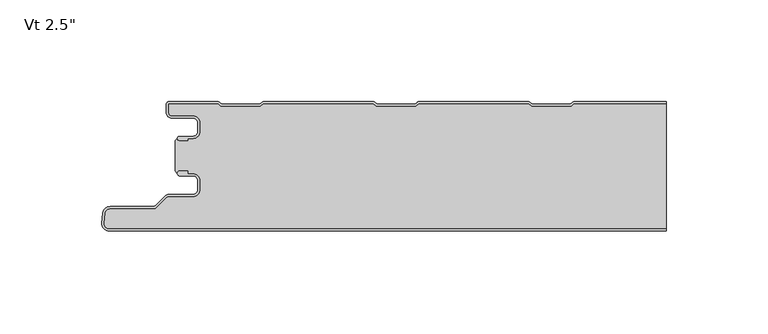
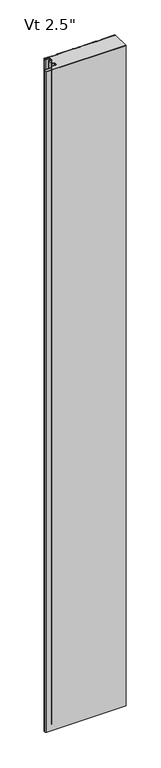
"""IFC4 building model written with IfcOpenShell, lengths in millimetres: plate geometry."""

from ifc_helpers import new_model, si_unit, point, frame, frame_2d, origin, origin_with_axes, place, context, project, spatial, polyline, circle_curve, trimmed, segment, composite_curve, outline, extrude, source, transform, mapped, element, save
from ifc_brep_helpers import plane_surface, cylinder_surface, revolved_surface, advanced_brep


def plate_06cb28f5(model_context):
    return source(origin(), model_context, "Body", "SolidModel", [
        advanced_brep(
        [(-118.368691, -17.0015034, 2400.0), (-119.3686883, -18.0015065, 2400.0), (-118.368691, -19.0014978, 2400.0), (-114.3684874, -19.0014979, 2400.0), (-114.3684874, -18.0015034, 2400.0), (-111.6762776, -18.0015034, 2400.0), (-108.3762819, -14.7015077, 2400.0), (-108.3762819, -10.3015164, 2400.0), (-111.6762774, -7.001521, 2400.0), (-122.0962563, -7.001521, 2400.0), (-123.8662505, -5.2315268, 2400.0), (-123.8662505, -0.9999791, 2400.0), (-99.3659738, -0.9999791, 2400.0), (-97.9803312, -2.2002182, 2400.0), (-78.6051649, -2.2002182, 2400.0), (-77.219532, -0.9999874, 2400.0), (-23.1661166, -0.9999874, 2400.0), (-21.7804836, -2.2002182, 2400.0), (-2.4053173, -2.2002182, 2400.0), (-1.0196844, -0.9999874, 2400.0), (53.033731, -0.9999874, 2400.0), (54.419364, -2.2002182, 2400.0), (73.7945303, -2.2002182, 2400.0), (75.1801632, -0.9999874, 2400.0), (120.3999998, -0.9999874, 2400.0), (120.3999998, 1.26e-05, 2400.0), (75.3293144, 1.26e-05, 2400.0), (74.4126975, -0.3417759, 2400.0), (73.4216499, -1.2002182, 2400.0), (54.7922444, -1.2002182, 2400.0), (53.8011968, -0.3417759, 2400.0), (52.8845799, 1.26e-05, 2400.0), (-0.8705332, 1.26e-05, 2400.0), (-1.7871501, -0.3417759, 2400.0), (-2.7781977, -1.2002182, 2400.0), (-21.4076032, -1.2002182, 2400.0), (-22.3986508, -0.3417759, 2400.0), (-23.3152677, 1.26e-05, 2400.0), (-77.0703808, 1.26e-05, 2400.0), (-77.9869977, -0.3417759, 2400.0), (-78.9780453, -1.2002182, 2400.0), (-97.6074508, -1.2002182, 2400.0), (-98.5984984, -0.3417759, 2400.0), (-99.5152067, 1.26e-05, 2400.0), (-123.4662543, 2.09e-05, 2400.0), (-124.8662505, -1.3999752, 2400.0), (-124.8662505, -5.2315268, 2400.0), (-122.0962563, -8.001521, 2400.0), (-111.6762774, -8.001521, 2400.0), (-109.3762819, -10.3015164, 2400.0), (-109.3762819, -14.7015077, 2400.0), (-111.6762776, -17.0015034, 2400.0), (-118.368691, -17.0015034, 0.0), (-111.6762776, -17.0015034, 0.0), (-109.3762819, -14.7015077, 0.0), (-109.3762819, -10.3015164, 0.0), (-111.6762774, -8.001521, 0.0), (-122.0962563, -8.001521, 0.0), (-124.8662505, -5.2315268, 0.0), (-124.8662505, -1.3999752, 0.0), (-123.4662543, 2.09e-05, 0.0), (-99.5151153, 2.09e-05, 0.0), (-98.5984984, -0.3417759, 0.0), (-97.6074508, -1.2002182, 0.0), (-78.9780453, -1.2002182, 0.0), (-77.9869977, -0.3417759, 0.0), (-77.0703808, 1.26e-05, 0.0), (-23.3152677, 1.26e-05, 0.0), (-22.3986508, -0.3417759, 0.0), (-21.4076032, -1.2002182, 0.0), (-2.7781977, -1.2002182, 0.0), (-1.7871501, -0.3417759, 0.0), (-0.8705332, 1.26e-05, 0.0), (52.8845799, 1.26e-05, 0.0), (53.8011968, -0.3417759, 0.0), (54.7922444, -1.2002182, 0.0), (73.4216499, -1.2002182, 0.0), (74.4126975, -0.3417759, 0.0), (75.3293144, 1.26e-05, 0.0), (120.3999998, 1.26e-05, 0.0), (120.3999998, -0.9999874, 0.0), (75.1801632, -0.9999874, 0.0), (73.7945303, -2.2002182, 0.0), (54.419364, -2.2002182, 0.0), (53.033731, -0.9999874, 0.0), (-1.0196844, -0.9999874, 0.0), (-2.4053173, -2.2002182, 0.0), (-21.7804836, -2.2002182, 0.0), (-23.1661166, -0.9999874, 0.0), (-77.219532, -0.9999874, 0.0), (-78.6051649, -2.2002182, 0.0), (-97.9803312, -2.2002182, 0.0), (-99.3659738, -0.9999791, 0.0), (-123.8662505, -0.9999791, 0.0), (-123.8662505, -5.2315268, 0.0), (-122.0962563, -7.001521, 0.0), (-111.6762774, -7.001521, 0.0), (-108.3762819, -10.3015164, 0.0), (-108.3762819, -14.7015077, 0.0), (-111.6762776, -18.0015034, 0.0), (-114.3684874, -18.0015034, 0.0), (-114.3684874, -19.0014979, 0.0), (-118.368691, -19.0014979, 0.0), (-119.3686882, -18.0015065, 0.0)],
        [
            (0, 1, circle_curve(frame((-118.368691, -18.0015006, 2400.0), z_axis=(0.0, 0.0, 1.0), x_axis=(1.0, 0.0, 0.0)), 0.9999973)),
            (1, 2, circle_curve(frame((-118.368691, -18.0015006, 2400.0), z_axis=(0.0, 0.0, 1.0), x_axis=(1.0, 0.0, 0.0)), 0.9999972)),
            (2, 3),
            (3, 4),
            (4, 5),
            (5, 6, circle_curve(frame((-111.6762776, -14.7015077, 2400.0), z_axis=(0.0, 0.0, 1.0), x_axis=(1.0, 0.0, 0.0)), 3.2999957)),
            (6, 7),
            (7, 8, circle_curve(frame((-111.6762774, -10.3015164, 2400.0), z_axis=(0.0, 0.0, 1.0), x_axis=(1.0, 0.0, 0.0)), 3.2999955)),
            (8, 9),
            (9, 10, circle_curve(frame((-122.0962563, -5.2315268, 2400.0), z_axis=(0.0, 0.0, -1.0), x_axis=(1.0, 0.0, 0.0)), 1.7699942)),
            (10, 11),
            (11, 12),
            (12, 13),
            (13, 14),
            (14, 15),
            (15, 16),
            (16, 17),
            (17, 18),
            (18, 19),
            (19, 20),
            (20, 21),
            (21, 22),
            (22, 23),
            (23, 24),
            (24, 25),
            (25, 26),
            (26, 27, circle_curve(frame((75.3293144, -1.3999846, 2400.0), z_axis=(0.0, 0.0, 1.0), x_axis=(1.0, 0.0, 0.0)), 1.3999972)),
            (27, 28),
            (28, 29),
            (29, 30),
            (30, 31, circle_curve(frame((52.8845799, -1.3999846, 2400.0), z_axis=(0.0, 0.0, 1.0), x_axis=(1.0, 0.0, 0.0)), 1.3999972)),
            (31, 32),
            (32, 33, circle_curve(frame((-0.8705332, -1.3999846, 2400.0), z_axis=(0.0, 0.0, 1.0), x_axis=(1.0, 0.0, 0.0)), 1.3999972)),
            (33, 34),
            (34, 35),
            (35, 36),
            (36, 37, circle_curve(frame((-23.3152677, -1.3999846, 2400.0), z_axis=(0.0, 0.0, 1.0), x_axis=(1.0, 0.0, 0.0)), 1.3999972)),
            (37, 38),
            (38, 39, circle_curve(frame((-77.0703808, -1.3999846, 2400.0), z_axis=(0.0, 0.0, 1.0), x_axis=(1.0, 0.0, 0.0)), 1.3999972)),
            (39, 40),
            (40, 41),
            (41, 42),
            (42, 43, circle_curve(frame((-99.5151153, -1.3999846, 2400.0), z_axis=(0.0, 0.0, 1.0), x_axis=(1.0, 0.0, 0.0)), 1.3999972)),
            (43, 44),
            (44, 45, circle_curve(frame((-123.4662543, -1.3999752, 2400.0), z_axis=(0.0, 0.0, 1.0), x_axis=(1.0, 0.0, 0.0)), 1.3999962)),
            (45, 46),
            (46, 47, circle_curve(frame((-122.0962563, -5.2315268, 2400.0), z_axis=(0.0, 0.0, 1.0), x_axis=(1.0, 0.0, 0.0)), 2.7699942)),
            (47, 48),
            (48, 49, circle_curve(frame((-111.6762774, -10.3015164, 2400.0), z_axis=(0.0, 0.0, -1.0), x_axis=(1.0, 0.0, 0.0)), 2.2999955)),
            (49, 50),
            (50, 51, circle_curve(frame((-111.6762776, -14.7015077, 2400.0), z_axis=(0.0, 0.0, -1.0), x_axis=(1.0, 0.0, 0.0)), 2.2999957)),
            (51, 0),
            (52, 53),
            (53, 54, circle_curve(frame((-111.6762776, -14.7015077, 0.0), z_axis=(0.0, 0.0, 1.0), x_axis=(1.0, 0.0, 0.0)), 2.2999957)),
            (54, 55),
            (55, 56, circle_curve(frame((-111.6762774, -10.3015164, 0.0), z_axis=(0.0, 0.0, 1.0), x_axis=(1.0, 0.0, 0.0)), 2.2999955)),
            (56, 57),
            (57, 58, circle_curve(frame((-122.0962563, -5.2315268, 0.0), z_axis=(0.0, 0.0, -1.0), x_axis=(1.0, 0.0, 0.0)), 2.7699942)),
            (58, 59),
            (59, 60, circle_curve(frame((-123.4662543, -1.3999752, 0.0), z_axis=(0.0, 0.0, -1.0), x_axis=(1.0, 0.0, 0.0)), 1.3999962)),
            (60, 61),
            (61, 62, circle_curve(frame((-99.5151153, -1.3999846, 0.0), z_axis=(0.0, 0.0, -1.0), x_axis=(1.0, 0.0, 0.0)), 1.3999972)),
            (62, 63),
            (63, 64),
            (64, 65),
            (65, 66, circle_curve(frame((-77.0703808, -1.3999846, 0.0), z_axis=(0.0, 0.0, -1.0), x_axis=(1.0, 0.0, 0.0)), 1.3999972)),
            (66, 67),
            (67, 68, circle_curve(frame((-23.3152677, -1.3999846, 0.0), z_axis=(0.0, 0.0, -1.0), x_axis=(1.0, 0.0, 0.0)), 1.3999972)),
            (68, 69),
            (69, 70),
            (70, 71),
            (71, 72, circle_curve(frame((-0.8705332, -1.3999846, 0.0), z_axis=(0.0, 0.0, -1.0), x_axis=(1.0, 0.0, 0.0)), 1.3999972)),
            (72, 73),
            (73, 74, circle_curve(frame((52.8845799, -1.3999846, 0.0), z_axis=(0.0, 0.0, -1.0), x_axis=(1.0, 0.0, 0.0)), 1.3999972)),
            (74, 75),
            (75, 76),
            (76, 77),
            (77, 78, circle_curve(frame((75.3293144, -1.3999846, 0.0), z_axis=(0.0, 0.0, -1.0), x_axis=(1.0, 0.0, 0.0)), 1.3999972)),
            (78, 79),
            (79, 80),
            (80, 81),
            (81, 82),
            (82, 83),
            (83, 84),
            (84, 85),
            (85, 86),
            (86, 87),
            (87, 88),
            (88, 89),
            (89, 90),
            (90, 91),
            (91, 92),
            (92, 93),
            (93, 94),
            (94, 95, circle_curve(frame((-122.0962563, -5.2315268, 0.0), z_axis=(0.0, 0.0, 1.0), x_axis=(1.0, 0.0, 0.0)), 1.7699942)),
            (95, 96),
            (96, 97, circle_curve(frame((-111.6762774, -10.3015164, 0.0), z_axis=(0.0, 0.0, -1.0), x_axis=(1.0, 0.0, 0.0)), 3.2999955)),
            (97, 98),
            (98, 99, circle_curve(frame((-111.6762776, -14.7015077, 0.0), z_axis=(0.0, 0.0, -1.0), x_axis=(1.0, 0.0, 0.0)), 3.2999957)),
            (99, 100),
            (100, 101),
            (101, 102),
            (102, 103, circle_curve(frame((-118.368691, -18.0015006, 0.0), z_axis=(0.0, 0.0, -1.0), x_axis=(1.0, 0.0, 0.0)), 0.9999972)),
            (103, 52, circle_curve(frame((-118.368691, -18.0015006, 0.0), z_axis=(0.0, 0.0, -1.0), x_axis=(1.0, 0.0, 0.0)), 0.9999973)),
            (24, 80),
            (79, 25),
            (51, 53),
            (52, 0),
            (50, 54),
            (49, 55),
            (48, 56),
            (47, 57),
            (46, 58),
            (45, 59),
            (44, 60),
            (43, 61),
            (78, 26),
            (42, 62),
            (41, 63),
            (40, 64),
            (38, 66),
            (65, 39),
            (36, 68),
            (67, 37),
            (77, 27),
            (76, 28),
            (31, 73),
            (72, 32),
            (71, 33),
            (34, 70),
            (69, 35),
            (30, 74),
            (29, 75),
            (2, 102),
            (101, 3),
            (1, 103),
            (23, 81),
            (22, 82),
            (21, 83),
            (20, 84),
            (19, 85),
            (18, 86),
            (17, 87),
            (16, 88),
            (15, 89),
            (14, 90),
            (13, 91),
            (12, 92),
            (11, 93),
            (10, 94),
            (9, 95),
            (8, 96),
            (7, 97),
            (6, 98),
            (5, 99),
            (4, 100),
        ],
        [
            plane_surface(frame((184.4000002, 1.26e-05, 2400.0), z_axis=(0.0, 0.0, 1.0), x_axis=(0.0, 1.0, 0.0))),
            plane_surface(frame((184.4000002, 1.26e-05, 0.0), z_axis=(0.0, 0.0, -1.0), x_axis=(0.0, 1.0, 0.0))),
            plane_surface(frame((120.3999998, -73.4999874, 2400.0), z_axis=(1.0, 0.0, 0.0), x_axis=(0.0, 0.0, -1.0))),
            plane_surface(frame((-118.368691, -17.0015034, 2400.0), z_axis=(0.0, 1.0, 0.0), x_axis=(0.0, 0.0, -1.0))),
            revolved_surface(polyline([(-109.37628190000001, -14.7015077, 0.0), (-109.37628190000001, -14.7015077, 2400.0)]), (-111.6762776, -14.7015077, 2400.0), (0.0, 0.0, -1.0)),
            plane_surface(frame((-109.3762819, -14.7015077, 2400.0), z_axis=(-1.0, 0.0, 0.0), x_axis=(0.0, 0.0, -1.0))),
            revolved_surface(polyline([(-109.37628190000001, -10.3015164, 0.0), (-109.37628190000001, -10.3015164, 2400.0)]), (-111.6762774, -10.3015164, 2400.0), (0.0, 0.0, -1.0)),
            plane_surface(frame((-111.6762774, -8.001521, 2400.0), z_axis=(0.0, -1.0, 0.0), x_axis=(0.0, 0.0, -1.0))),
            cylinder_surface(frame((-122.0962563, -5.2315268, 2400.0), z_axis=(0.0, 0.0, 1.0), x_axis=(1.0, 0.0, 0.0)), 2.7699942),
            plane_surface(frame((-124.8662505, -5.2315268, 2400.0), z_axis=(-1.0, 0.0, 0.0), x_axis=(0.0, 0.0, -1.0))),
            cylinder_surface(frame((-123.4662543, -1.3999752, 2400.0), z_axis=(0.0, 0.0, 1.0), x_axis=(1.0, 0.0, 0.0)), 1.3999962),
            plane_surface(frame((-123.4662543, 2.09e-05, 2400.0), z_axis=(0.0, 1.0, 0.0), x_axis=(0.0, 0.0, -1.0))),
            plane_surface(frame((75.3293144, 1.26e-05, 2400.0), z_axis=(0.0, 1.0, 0.0), x_axis=(0.0, 0.0, -1.0))),
            cylinder_surface(frame((-99.5151153, -1.3999846, 2400.0), z_axis=(0.0, 0.0, 1.0), x_axis=(1.0, 0.0, 0.0)), 1.3999972),
            plane_surface(frame((-98.5984984, -0.3417759, 2400.0), z_axis=(0.6547276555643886, 0.755864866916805, 0.0), x_axis=(0.0, 0.0, -1.0))),
            plane_surface(frame((-88.2927481, -1.2002182, 2400.0), z_axis=(0.0, 1.0, 0.0), x_axis=(0.0, 0.0, -1.0))),
            cylinder_surface(frame((-77.0703808, -1.3999846, 2400.0), z_axis=(0.0, 0.0, 1.0), x_axis=(1.0, 0.0, 0.0)), 1.3999972),
            plane_surface(frame((-78.9780453, -1.2002182, 2400.0), z_axis=(-0.6547276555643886, 0.755864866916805, 0.0), x_axis=(0.0, 0.0, -1.0))),
            cylinder_surface(frame((-23.3152677, -1.3999846, 2400.0), z_axis=(0.0, 0.0, 1.0), x_axis=(1.0, 0.0, 0.0)), 1.3999972),
            cylinder_surface(frame((75.3293144, -1.3999846, 2400.0), z_axis=(0.0, 0.0, 1.0), x_axis=(1.0, 0.0, 0.0)), 1.3999972),
            plane_surface(frame((73.4216499, -1.2002182, 2400.0), z_axis=(-0.6547276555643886, 0.755864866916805, 0.0), x_axis=(0.0, 0.0, -1.0))),
            plane_surface(frame((-0.8705332, 1.26e-05, 2400.0), z_axis=(0.0, 1.0, 0.0), x_axis=(0.0, 0.0, -1.0))),
            cylinder_surface(frame((-0.8705332, -1.3999846, 2400.0), z_axis=(0.0, 0.0, 1.0), x_axis=(1.0, 0.0, 0.0)), 1.3999972),
            plane_surface(frame((-12.0929005, -1.2002182, 2400.0), z_axis=(0.0, 1.0, 0.0), x_axis=(0.0, 0.0, -1.0))),
            plane_surface(frame((-22.3986508, -0.3417759, 2400.0), z_axis=(0.6547276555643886, 0.755864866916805, 0.0), x_axis=(0.0, 0.0, -1.0))),
            plane_surface(frame((-2.7781977, -1.2002182, 2400.0), z_axis=(-0.6547276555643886, 0.755864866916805, 0.0), x_axis=(0.0, 0.0, -1.0))),
            plane_surface(frame((-77.0703808, 1.26e-05, 2400.0), z_axis=(0.0, 1.0, 0.0), x_axis=(0.0, 0.0, -1.0))),
            cylinder_surface(frame((52.8845799, -1.3999846, 2400.0), z_axis=(0.0, 0.0, 1.0), x_axis=(1.0, 0.0, 0.0)), 1.3999972),
            plane_surface(frame((53.8011968, -0.3417759, 2400.0), z_axis=(0.6547276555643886, 0.755864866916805, 0.0), x_axis=(0.0, 0.0, -1.0))),
            plane_surface(frame((64.1069471, -1.2002182, 2400.0), z_axis=(0.0, 1.0, 0.0), x_axis=(0.0, 0.0, -1.0))),
            plane_surface(frame((-114.3684874, -19.0014979, 2400.0), z_axis=(0.0, -1.0, 0.0), x_axis=(0.0, 0.0, -1.0))),
            cylinder_surface(frame((-118.368691, -18.0015006, 2400.0), z_axis=(0.0, 0.0, 1.0), x_axis=(1.0, 0.0, 0.0)), 0.9999972),
            cylinder_surface(frame((-118.368691, -18.0015006, 2400.0), z_axis=(0.0, 0.0, 1.0), x_axis=(1.0, 0.0, 0.0)), 0.9999973),
            plane_surface(frame((129.2335786, -0.9999874, 2400.0), z_axis=(0.0, -1.0, 0.0), x_axis=(0.0, 0.0, -1.0))),
            plane_surface(frame((75.1801632, -0.9999874, 2400.0), z_axis=(0.6547276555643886, -0.755864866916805, 0.0), x_axis=(0.0, 0.0, -1.0))),
            plane_surface(frame((73.7945303, -2.2002182, 2400.0), z_axis=(0.0, -1.0, 0.0), x_axis=(0.0, 0.0, -1.0))),
            plane_surface(frame((54.419364, -2.2002182, 2400.0), z_axis=(-0.6547276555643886, -0.755864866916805, 0.0), x_axis=(0.0, 0.0, -1.0))),
            plane_surface(frame((53.033731, -0.9999874, 2400.0), z_axis=(0.0, -1.0, 0.0), x_axis=(0.0, 0.0, -1.0))),
            plane_surface(frame((-1.0196844, -0.9999874, 2400.0), z_axis=(0.6547276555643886, -0.755864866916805, 0.0), x_axis=(0.0, 0.0, -1.0))),
            plane_surface(frame((-2.4053173, -2.2002182, 2400.0), z_axis=(0.0, -1.0, 0.0), x_axis=(0.0, 0.0, -1.0))),
            plane_surface(frame((-21.7804836, -2.2002182, 2400.0), z_axis=(-0.6547276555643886, -0.755864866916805, 0.0), x_axis=(0.0, 0.0, -1.0))),
            plane_surface(frame((-23.1661166, -0.9999874, 2400.0), z_axis=(0.0, -1.0, 0.0), x_axis=(0.0, 0.0, -1.0))),
            plane_surface(frame((-77.219532, -0.9999874, 2400.0), z_axis=(0.6547276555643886, -0.755864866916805, 0.0), x_axis=(0.0, 0.0, -1.0))),
            plane_surface(frame((-78.6051649, -2.2002182, 2400.0), z_axis=(0.0, -1.0, 0.0), x_axis=(0.0, 0.0, -1.0))),
            plane_surface(frame((-97.9803312, -2.2002182, 2400.0), z_axis=(-0.6547276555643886, -0.755864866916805, 0.0), x_axis=(0.0, 0.0, -1.0))),
            plane_surface(frame((-99.3659738, -0.9999791, 2400.0), z_axis=(0.0, -1.0, 0.0), x_axis=(0.0, 0.0, -1.0))),
            plane_surface(frame((-123.8662505, -0.9999791, 2400.0), z_axis=(1.0, 0.0, 0.0), x_axis=(0.0, 0.0, -1.0))),
            revolved_surface(polyline([(-120.3262621, -5.2315268, 0.0), (-120.3262621, -5.2315268, 2400.0)]), (-122.0962563, -5.2315268, 2400.0), (0.0, 0.0, -1.0)),
            plane_surface(frame((-122.0962563, -7.001521, 2400.0), z_axis=(0.0, 1.0, 0.0), x_axis=(0.0, 0.0, -1.0))),
            cylinder_surface(frame((-111.6762774, -10.3015164, 2400.0), z_axis=(0.0, 0.0, 1.0), x_axis=(1.0, 0.0, 0.0)), 3.2999955),
            plane_surface(frame((-108.3762819, -10.3015164, 2400.0), z_axis=(1.0, 0.0, 0.0), x_axis=(0.0, 0.0, -1.0))),
            cylinder_surface(frame((-111.6762776, -14.7015077, 2400.0), z_axis=(0.0, 0.0, 1.0), x_axis=(1.0, 0.0, 0.0)), 3.2999957),
            plane_surface(frame((-111.6762776, -18.0015034, 2400.0), z_axis=(0.0, -1.0, 0.0), x_axis=(0.0, 0.0, -1.0))),
            plane_surface(frame((-114.3684874, -18.0015034, 2400.0), z_axis=(1.0, 0.0, 0.0), x_axis=(0.0, 0.0, -1.0))),
        ],
        [
            (0, [[1, 2, 3, 4, 5, 6, 7, 8, 9, 10, 11, 12, 13, 14, 15, 16, 17, 18, 19, 20, 21, 22, 23, 24, 25, 26, 27, 28, 29, 30, 31, 32, 33, 34, 35, 36, 37, 38, 39, 40, 41, 42, 43, 44, 45, 46, 47, 48, 49, 50, 51, 52]]),
            (1, [[53, 54, 55, 56, 57, 58, 59, 60, 61, 62, 63, 64, 65, 66, 67, 68, 69, 70, 71, 72, 73, 74, 75, 76, 77, 78, 79, 80, 81, 82, 83, 84, 85, 86, 87, 88, 89, 90, 91, 92, 93, 94, 95, 96, 97, 98, 99, 100, 101, 102, 103, 104]]),
            (2, [[105, -80, 106, -25]]),
            (3, [[107, -53, 108, -52]]),
            (4, [[109, -54, -107, -51]]),
            (5, [[110, -55, -109, -50]]),
            (6, [[111, -56, -110, -49]]),
            (7, [[112, -57, -111, -48]]),
            (8, [[113, -58, -112, -47]]),
            (9, [[114, -59, -113, -46]]),
            (10, [[115, -60, -114, -45]]),
            (11, [[116, -61, -115, -44]]),
            (12, [[-26, -106, -79, 117]]),
            (13, [[118, -62, -116, -43]]),
            (14, [[119, -63, -118, -42]]),
            (15, [[120, -64, -119, -41]]),
            (16, [[121, -66, 122, -39]]),
            (17, [[-122, -65, -120, -40]]),
            (18, [[123, -68, 124, -37]]),
            (19, [[-117, -78, 125, -27]]),
            (20, [[-125, -77, 126, -28]]),
            (21, [[127, -73, 128, -32]]),
            (22, [[-128, -72, 129, -33]]),
            (23, [[130, -70, 131, -35]]),
            (24, [[-131, -69, -123, -36]]),
            (25, [[-129, -71, -130, -34]]),
            (26, [[-124, -67, -121, -38]]),
            (27, [[132, -74, -127, -31]]),
            (28, [[133, -75, -132, -30]]),
            (29, [[-126, -76, -133, -29]]),
            (30, [[134, -102, 135, -3]]),
            (31, [[136, -103, -134, -2]]),
            (32, [[-108, -104, -136, -1]]),
            (33, [[-81, -105, -24, 137]]),
            (34, [[138, -82, -137, -23]]),
            (35, [[139, -83, -138, -22]]),
            (36, [[140, -84, -139, -21]]),
            (37, [[141, -85, -140, -20]]),
            (38, [[142, -86, -141, -19]]),
            (39, [[143, -87, -142, -18]]),
            (40, [[144, -88, -143, -17]]),
            (41, [[145, -89, -144, -16]]),
            (42, [[146, -90, -145, -15]]),
            (43, [[147, -91, -146, -14]]),
            (44, [[148, -92, -147, -13]]),
            (45, [[149, -93, -148, -12]]),
            (46, [[150, -94, -149, -11]]),
            (47, [[151, -95, -150, -10]]),
            (48, [[152, -96, -151, -9]]),
            (49, [[153, -97, -152, -8]]),
            (50, [[154, -98, -153, -7]]),
            (51, [[155, -99, -154, -6]]),
            (52, [[156, -100, -155, -5]]),
            (53, [[-135, -101, -156, -4]]),
        ],
    ),
        extrude(outline(composite_curve([segment(polyline([(-156.4087505, -59.6183478), (-155.9690674, -54.5944311)]), True, "CONTINUOUS"), segment(trimmed(circle_curve(frame_2d((-152.3198391, -55.2052322)), 3.6999926), [point((-155.9690674, -54.5944311))], [point((-152.3198391, -51.5052396))], False, "CARTESIAN"), True, "CONTINUOUS"), segment(polyline([(-152.3198391, -51.5052396), (-131.1773995, -51.5052396)]), True, "CONTINUOUS"), segment(trimmed(circle_curve(frame_2d((-131.1773995, -50.2052422)), 1.2999974), [point((-131.1773995, -51.5052396))], [point((-130.2581626, -51.1244792))], True, "CARTESIAN"), True, "CONTINUOUS"), segment(polyline([(-130.2581626, -51.1244792), (-125.4297451, -46.2960618)]), True, "CONTINUOUS"), segment(trimmed(circle_curve(frame_2d((-123.5205606, -48.2052462)), 2.6999946), [point((-125.4297451, -46.2960618))], [point((-123.5205606, -45.5052516))], False, "CARTESIAN"), True, "CONTINUOUS"), segment(polyline([(-123.5205606, -45.5052516), (-111.7096715, -45.5052516)]), True, "CONTINUOUS"), segment(trimmed(circle_curve(frame_2d((-111.7096715, -43.1552563)), 2.3499953), [point((-111.7096715, -45.5052516))], [point((-109.3596762, -43.1552563))], True, "CARTESIAN"), True, "CONTINUOUS"), segment(polyline([(-109.3596762, -43.1552563), (-109.3596762, -38.7552651)]), True, "CONTINUOUS"), segment(trimmed(circle_curve(frame_2d((-111.7096715, -38.7552651)), 2.3499953), [point((-109.3596762, -38.7552651))], [point((-111.7096715, -36.4052698))], True, "CARTESIAN"), True, "CONTINUOUS"), segment(polyline([(-111.7096715, -36.4052698), (-118.2289777, -36.4052698)]), True, "CONTINUOUS"), segment(trimmed(circle_curve(frame_2d((-118.1686906, -35.2067876)), 1.1999976), [point((-118.2289777, -36.4052698))], [point((-119.3683, -35.1762657))], False, "CARTESIAN"), True, "CONTINUOUS"), segment(trimmed(circle_curve(frame_2d((-118.1686906, -35.2067876)), 1.1999976), [point((-119.3683, -35.1762657))], [point((-118.167176, -34.006791))], False, "CARTESIAN"), True, "CONTINUOUS"), segment(polyline([(-118.167176, -34.006791), (-114.4087826, -34.006791), (-114.4087826, -35.4052698), (-111.7096715, -35.4052698)]), True, "CONTINUOUS"), segment(trimmed(circle_curve(frame_2d((-111.7096715, -38.7552651)), 3.3499953), [point((-111.7096715, -35.4052698))], [point((-108.3596762, -38.7552651))], False, "CARTESIAN"), True, "CONTINUOUS"), segment(polyline([(-108.3596762, -38.7552651), (-108.3596762, -43.1552563)]), True, "CONTINUOUS"), segment(trimmed(circle_curve(frame_2d((-111.7096715, -43.1552563)), 3.3499953), [point((-108.3596762, -43.1552563))], [point((-111.7096715, -46.5052516))], False, "CARTESIAN"), True, "CONTINUOUS"), segment(polyline([(-111.7096715, -46.5052516), (-123.5205606, -46.5052516)]), True, "CONTINUOUS"), segment(trimmed(circle_curve(frame_2d((-123.5205606, -48.2052462)), 1.6999946), [point((-123.5205606, -46.5052516))], [point((-124.7226383, -47.0031685))], True, "CARTESIAN"), True, "CONTINUOUS"), segment(polyline([(-124.7226383, -47.0031685), (-130.2247094, -52.5052396), (-152.3198391, -52.5052396)]), True, "CONTINUOUS"), segment(trimmed(circle_curve(frame_2d((-152.3198391, -55.2052322)), 2.6999926), [point((-152.3198391, -52.5052396))], [point((-154.9765707, -54.7238416))], True, "CARTESIAN"), True, "CONTINUOUS"), segment(polyline([(-154.9765707, -54.7238416), (-155.4125697, -59.7056625)]), True, "CONTINUOUS"), segment(trimmed(circle_curve(frame_2d((-152.8521175, -59.9297482)), 2.5702393), [point((-155.4125697, -59.7056625))], [point((-152.9094458, -62.499348))], True, "CARTESIAN"), True, "CONTINUOUS"), segment(polyline([(-152.9094458, -62.499348), (120.3999998, -62.499348), (120.3999998, -63.4996828), (-152.8521038, -63.4998575)]), True, "CONTINUOUS"), segment(trimmed(circle_curve(frame_2d((-152.8521061, -59.9296182)), 3.5702393), [point((-152.8521038, -63.4998575))], [point((-156.4087505, -59.6183478))], False, "CARTESIAN"), True, "CONTINUOUS")], self_intersect=False)), origin_with_axes(), (0.0, 0.0, 1.0), 2400.0),
        advanced_brep(
        [(-119.3683, -35.1708624, 2400.0), (-118.167176, -34.0013877, 2400.0), (-114.4087826, -34.0013877, 2400.0), (-114.4087826, -35.3998666, 2400.0), (-111.7096715, -35.3998666, 2400.0), (-108.3596762, -38.7498619, 2400.0), (-108.3596762, -43.1498531, 2400.0), (-111.7096715, -46.4998484, 2400.0), (-123.5205606, -46.4998484, 2400.0), (-124.7226383, -46.9977653, 2400.0), (-130.2247094, -52.4998364, 2400.0), (-152.3198391, -52.4998364, 2400.0), (-154.9765707, -54.7184384, 2400.0), (-155.4125697, -59.7002592, 2400.0), (-152.8521175, -62.4945842, 2400.0), (120.3999998, -62.4999874, 2400.0), (120.3999998, -0.9999874, 2400.0), (75.1801633, -0.9999874, 2400.0), (73.7945303, -2.2002182, 2400.0), (54.419364, -2.2002182, 2400.0), (53.0337311, -0.9999874, 2400.0), (-1.0196843, -0.9999874, 2400.0), (-2.4053173, -2.2002182, 2400.0), (-21.7804836, -2.2002182, 2400.0), (-23.1661165, -0.9999874, 2400.0), (-77.2195319, -0.9999874, 2400.0), (-78.6051649, -2.2002182, 2400.0), (-97.9803312, -2.2002182, 2400.0), (-99.3659738, -0.9999791, 2400.0), (-123.8662504, -0.9999791, 2400.0), (-123.8662504, -5.2315264, 2400.0), (-122.0962562, -7.0015206, 2400.0), (-111.6762777, -7.0015206, 2400.0), (-108.3762818, -10.3015164, 2400.0), (-108.3762818, -14.7015077, 2400.0), (-111.6762775, -18.0015034, 2400.0), (-114.3684873, -18.0015034, 2400.0), (-114.3684873, -19.0014979, 2400.0), (-118.368691, -19.0014979, 2400.0), (-119.3686882, -18.0015066, 2400.0), (-120.3999998, -19.0328183, 2400.0), (-120.3999998, -34.1391626, 2400.0), (-119.3683, -35.1708624, 0.0), (-120.3999998, -34.1391626, 0.0), (-120.3999998, -19.0328183, 0.0), (-119.3686882, -18.0015066, 0.0), (-118.368691, -19.0014979, 0.0), (-114.3684873, -19.0014979, 0.0), (-114.3684873, -18.0015034, 0.0), (-111.6762775, -18.0015034, 0.0), (-108.3762818, -14.7015077, 0.0), (-108.3762818, -10.3015164, 0.0), (-111.6762777, -7.0015206, 0.0), (-122.0962562, -7.0015206, 0.0), (-123.8662504, -5.2315264, 0.0), (-123.8662504, -0.9999791, 0.0), (-99.3659738, -0.9999791, 0.0), (-97.9803312, -2.2002182, 0.0), (-78.6051649, -2.2002182, 0.0), (-77.2195319, -0.9999874, 0.0), (-23.1661165, -0.9999874, 0.0), (-21.7804836, -2.2002182, 0.0), (-2.4053173, -2.2002182, 0.0), (-1.0196843, -0.9999874, 0.0), (53.0337311, -0.9999874, 0.0), (54.419364, -2.2002182, 0.0), (73.7945303, -2.2002182, 0.0), (75.1801633, -0.9999874, 0.0), (120.3999998, -0.9999874, 0.0), (120.3999998, -62.4999874, 0.0), (-152.8521175, -62.4999874, 0.0), (-155.4125697, -59.7002592, 0.0), (-154.9765707, -54.7184384, 0.0), (-152.3198391, -52.4998364, 0.0), (-130.2247094, -52.4998364, 0.0), (-124.7226383, -46.9977653, 0.0), (-123.5205606, -46.4998484, 0.0), (-111.7096715, -46.4998484, 0.0), (-108.3596762, -43.1498531, 0.0), (-108.3596762, -38.7498619, 0.0), (-111.7096715, -35.3998666, 0.0), (-114.4087826, -35.3998666, 0.0), (-114.4087826, -34.0013877, 0.0), (-118.167176, -34.0013877, 0.0)],
        [
            (0, 1, circle_curve(frame((-118.1686906, -35.2013843, 2400.0), z_axis=(0.0, 0.0, -1.0), x_axis=(-1.0, 0.0, 0.0)), 1.1999976)),
            (1, 2),
            (2, 3),
            (3, 4),
            (4, 5, circle_curve(frame((-111.7096715, -38.7498619, 2400.0), z_axis=(0.0, 0.0, -1.0), x_axis=(-1.0, 0.0, 0.0)), 3.3499953)),
            (5, 6),
            (6, 7, circle_curve(frame((-111.7096715, -43.1498531, 2400.0), z_axis=(0.0, 0.0, -1.0), x_axis=(-1.0, 0.0, 0.0)), 3.3499953)),
            (7, 8),
            (8, 9, circle_curve(frame((-123.5205606, -48.199843, 2400.0), z_axis=(0.0, 0.0, 1.0), x_axis=(-1.0, 0.0, 0.0)), 1.6999946)),
            (9, 10),
            (10, 11),
            (11, 12, circle_curve(frame((-152.3198391, -55.199829, 2400.0), z_axis=(0.0, 0.0, 1.0), x_axis=(-1.0, 0.0, 0.0)), 2.6999926)),
            (12, 13),
            (13, 14, circle_curve(frame((-152.8521175, -59.9243449, 2400.0), z_axis=(0.0, 0.0, 1.0), x_axis=(-1.0, 0.0, 0.0)), 2.5702393)),
            (14, 15),
            (15, 16),
            (16, 17),
            (17, 18),
            (18, 19),
            (19, 20),
            (20, 21),
            (21, 22),
            (22, 23),
            (23, 24),
            (24, 25),
            (25, 26),
            (26, 27),
            (27, 28),
            (28, 29),
            (29, 30),
            (30, 31, circle_curve(frame((-122.0962562, -5.2315264, 2400.0), z_axis=(0.0, 0.0, 1.0), x_axis=(1.0, 0.0, 0.0)), 1.7699942)),
            (31, 32),
            (32, 33, circle_curve(frame((-111.6762777, -10.3015164, 2400.0), z_axis=(0.0, 0.0, -1.0), x_axis=(1.0, 0.0, 0.0)), 3.2999959)),
            (33, 34),
            (34, 35, circle_curve(frame((-111.6762775, -14.7015077, 2400.0), z_axis=(0.0, 0.0, -1.0), x_axis=(1.0, 0.0, 0.0)), 3.2999957)),
            (35, 36),
            (36, 37),
            (37, 38),
            (38, 39, circle_curve(frame((-118.368691, -18.0015007, 2400.0), z_axis=(0.0, 0.0, -1.0), x_axis=(1.0, 0.0, 0.0)), 0.9999972)),
            (39, 40),
            (40, 41),
            (41, 0),
            (42, 43),
            (43, 44),
            (44, 45),
            (45, 46, circle_curve(frame((-118.368691, -18.0015007, 0.0), z_axis=(0.0, 0.0, 1.0), x_axis=(1.0, 0.0, 0.0)), 0.9999972)),
            (46, 47),
            (47, 48),
            (48, 49),
            (49, 50, circle_curve(frame((-111.6762775, -14.7015077, 0.0), z_axis=(0.0, 0.0, 1.0), x_axis=(1.0, 0.0, 0.0)), 3.2999957)),
            (50, 51),
            (51, 52, circle_curve(frame((-111.6762777, -10.3015164, 0.0), z_axis=(0.0, 0.0, 1.0), x_axis=(1.0, 0.0, 0.0)), 3.2999959)),
            (52, 53),
            (53, 54, circle_curve(frame((-122.0962562, -5.2315264, 0.0), z_axis=(0.0, 0.0, -1.0), x_axis=(1.0, 0.0, 0.0)), 1.7699942)),
            (54, 55),
            (55, 56),
            (56, 57),
            (57, 58),
            (58, 59),
            (59, 60),
            (60, 61),
            (61, 62),
            (62, 63),
            (63, 64),
            (64, 65),
            (65, 66),
            (66, 67),
            (67, 68),
            (68, 69),
            (69, 70),
            (70, 71, circle_curve(frame((-152.8521175, -59.9243449, 0.0), z_axis=(0.0, 0.0, -1.0), x_axis=(-1.0, 0.0, 0.0)), 2.5702393)),
            (71, 72),
            (72, 73, circle_curve(frame((-152.3198391, -55.199829, 0.0), z_axis=(0.0, 0.0, -1.0), x_axis=(-1.0, 0.0, 0.0)), 2.6999926)),
            (73, 74),
            (74, 75),
            (75, 76, circle_curve(frame((-123.5205606, -48.199843, 0.0), z_axis=(0.0, 0.0, -1.0), x_axis=(-1.0, 0.0, 0.0)), 1.6999946)),
            (76, 77),
            (77, 78, circle_curve(frame((-111.7096715, -43.1498531, 0.0), z_axis=(0.0, 0.0, 1.0), x_axis=(-1.0, 0.0, 0.0)), 3.3499953)),
            (78, 79),
            (79, 80, circle_curve(frame((-111.7096715, -38.7498619, 0.0), z_axis=(0.0, 0.0, 1.0), x_axis=(-1.0, 0.0, 0.0)), 3.3499953)),
            (80, 81),
            (81, 82),
            (82, 83),
            (83, 42, circle_curve(frame((-118.1686906, -35.2013843, 0.0), z_axis=(0.0, 0.0, 1.0), x_axis=(-1.0, 0.0, 0.0)), 1.1999976)),
            (41, 43),
            (42, 0),
            (40, 44),
            (69, 15),
            (14, 70),
            (13, 71),
            (12, 72),
            (11, 73),
            (10, 74),
            (9, 75),
            (8, 76),
            (7, 77),
            (6, 78),
            (5, 79),
            (4, 80),
            (3, 81),
            (2, 82),
            (1, 83),
            (39, 45),
            (38, 46),
            (37, 47),
            (36, 48),
            (35, 49),
            (34, 50),
            (33, 51),
            (32, 52),
            (31, 53),
            (30, 54),
            (29, 55),
            (27, 57),
            (56, 28),
            (68, 16),
            (26, 58),
            (25, 59),
            (24, 60),
            (23, 61),
            (22, 62),
            (21, 63),
            (20, 64),
            (19, 65),
            (18, 66),
            (17, 67),
        ],
        [
            plane_surface(frame((184.4000002, -62.4999874, 2400.0), z_axis=(0.0, 0.0, 1.0), x_axis=(0.0, -1.0, 0.0))),
            plane_surface(frame((184.4000002, -62.4999874, 0.0), z_axis=(0.0, 0.0, -1.0), x_axis=(0.0, -1.0, 0.0))),
            plane_surface(frame((-119.3683, -35.1708624, 2400.0), z_axis=(-0.7071067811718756, -0.7071067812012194, 0.0), x_axis=(0.0, 0.0, -1.0))),
            plane_surface(frame((-120.3999998, -34.1391626, 2400.0), z_axis=(-1.0, 0.0, 0.0), x_axis=(0.0, 0.0, -1.0))),
            plane_surface(frame((440.7156221, -62.4999874, 2400.0), z_axis=(0.0, -1.0, 0.0), x_axis=(0.0, 0.0, -1.0))),
            cylinder_surface(frame((-152.8521175, -59.9243449, 2400.0), z_axis=(0.0, 0.0, 1.0), x_axis=(-1.0, 0.0, 0.0)), 2.5702393),
            plane_surface(frame((-155.4125697, -59.7002592, 2400.0), z_axis=(-0.9961921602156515, 0.08718474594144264, 0.0), x_axis=(0.0, 0.0, -1.0))),
            cylinder_surface(frame((-152.3198391, -55.199829, 2400.0), z_axis=(0.0, 0.0, 1.0), x_axis=(-1.0, 0.0, 0.0)), 2.6999926),
            plane_surface(frame((-152.3198391, -52.4998364, 2400.0), z_axis=(0.0, 1.0, 0.0), x_axis=(0.0, 0.0, -1.0))),
            plane_surface(frame((-130.2247094, -52.4998364, 2400.0), z_axis=(-0.7071067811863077, 0.7071067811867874, 0.0), x_axis=(0.0, 0.0, -1.0))),
            cylinder_surface(frame((-123.5205606, -48.199843, 2400.0), z_axis=(0.0, 0.0, 1.0), x_axis=(-1.0, 0.0, 0.0)), 1.6999946),
            plane_surface(frame((-123.5205606, -46.4998484, 2400.0), z_axis=(0.0, 1.0, 0.0), x_axis=(0.0, 0.0, -1.0))),
            revolved_surface(polyline([(-115.0596668, -43.1498531, 0.0), (-115.0596668, -43.1498531, 2400.0)]), (-111.7096715, -43.1498531, 2400.0), (0.0, 0.0, -1.0)),
            plane_surface(frame((-108.3596762, -43.1498531, 2400.0), z_axis=(-1.0, 0.0, 0.0), x_axis=(0.0, 0.0, -1.0))),
            revolved_surface(polyline([(-115.0596668, -38.7498619, 0.0), (-115.0596668, -38.7498619, 2400.0)]), (-111.7096715, -38.7498619, 2400.0), (0.0, 0.0, -1.0)),
            plane_surface(frame((-111.7096715, -35.3998666, 2400.0), z_axis=(0.0, -1.0, 0.0), x_axis=(0.0, 0.0, -1.0))),
            plane_surface(frame((-114.4087826, -35.3998666, 2400.0), z_axis=(-1.0, 0.0, 0.0), x_axis=(0.0, 0.0, -1.0))),
            plane_surface(frame((-114.4087826, -34.0013877, 2400.0), z_axis=(0.0, -1.0, 0.0), x_axis=(0.0, 0.0, -1.0))),
            revolved_surface(polyline([(-119.36868820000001, -35.2013843, 0.0), (-119.36868820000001, -35.2013843, 2400.0)]), (-118.1686906, -35.2013843, 2400.0), (0.0, 0.0, -1.0)),
            plane_surface(frame((-120.3999998, -19.0328183, 2400.0), z_axis=(-0.7071067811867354, 0.7071067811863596, 0.0), x_axis=(0.0, 0.0, -1.0))),
            revolved_surface(polyline([(-117.3686938, -18.0015007, 0.0), (-117.3686938, -18.0015007, 2400.0)]), (-118.368691, -18.0015007, 2400.0), (0.0, 0.0, -1.0)),
            plane_surface(frame((-118.368691, -19.0014979, 2400.0), z_axis=(0.0, 1.0, 0.0), x_axis=(0.0, 0.0, -1.0))),
            plane_surface(frame((-114.3684873, -19.0014979, 2400.0), z_axis=(-1.0, 0.0, 0.0), x_axis=(0.0, 0.0, -1.0))),
            plane_surface(frame((-114.3684873, -18.0015034, 2400.0), z_axis=(0.0, 1.0, 0.0), x_axis=(0.0, 0.0, -1.0))),
            revolved_surface(polyline([(-108.3762818, -14.7015077, 0.0), (-108.3762818, -14.7015077, 2400.0)]), (-111.6762775, -14.7015077, 2400.0), (0.0, 0.0, -1.0)),
            plane_surface(frame((-108.3762818, -14.7015077, 2400.0), z_axis=(-1.0, 0.0, 0.0), x_axis=(0.0, 0.0, -1.0))),
            revolved_surface(polyline([(-108.3762818, -10.3015164, 0.0), (-108.3762818, -10.3015164, 2400.0)]), (-111.6762777, -10.3015164, 2400.0), (0.0, 0.0, -1.0)),
            plane_surface(frame((-111.6762777, -7.0015206, 2400.0), z_axis=(0.0, -1.0, 0.0), x_axis=(0.0, 0.0, -1.0))),
            cylinder_surface(frame((-122.0962562, -5.2315264, 2400.0), z_axis=(0.0, 0.0, 1.0), x_axis=(1.0, 0.0, 0.0)), 1.7699942),
            plane_surface(frame((-123.8662504, -5.2315264, 2400.0), z_axis=(-1.0, 0.0, 0.0), x_axis=(0.0, 0.0, -1.0))),
            plane_surface(frame((-99.3659738, -0.9999791, 2400.0), z_axis=(0.6547276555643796, 0.7558648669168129, 0.0), x_axis=(0.0, 0.0, -1.0))),
            plane_surface(frame((-123.8662504, -0.9999791, 2400.0), z_axis=(0.0, 1.0, 0.0), x_axis=(0.0, 0.0, -1.0))),
            plane_surface(frame((120.3999998, -73.4999874, 2400.0), z_axis=(1.0, 0.0, 0.0), x_axis=(0.0, 0.0, -1.0))),
            plane_surface(frame((-97.9803312, -2.2002182, 2400.0), z_axis=(0.0, 1.0, 0.0), x_axis=(0.0, 0.0, -1.0))),
            plane_surface(frame((-78.6051649, -2.2002182, 2400.0), z_axis=(-0.6547276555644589, 0.7558648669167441, 0.0), x_axis=(0.0, 0.0, -1.0))),
            plane_surface(frame((-77.2195319, -0.9999874, 2400.0), z_axis=(0.0, 1.0, 0.0), x_axis=(0.0, 0.0, -1.0))),
            plane_surface(frame((-23.1661165, -0.9999874, 2400.0), z_axis=(0.6547276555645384, 0.7558648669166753, 0.0), x_axis=(0.0, 0.0, -1.0))),
            plane_surface(frame((-21.7804836, -2.2002182, 2400.0), z_axis=(0.0, 1.0, 0.0), x_axis=(0.0, 0.0, -1.0))),
            plane_surface(frame((-2.4053173, -2.2002182, 2400.0), z_axis=(-0.6547276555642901, 0.7558648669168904, 0.0), x_axis=(0.0, 0.0, -1.0))),
            plane_surface(frame((-1.0196843, -0.9999874, 2400.0), z_axis=(0.0, 1.0, 0.0), x_axis=(0.0, 0.0, -1.0))),
            plane_surface(frame((53.0337311, -0.9999874, 2400.0), z_axis=(0.6547276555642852, 0.7558648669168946, 0.0), x_axis=(0.0, 0.0, -1.0))),
            plane_surface(frame((54.419364, -2.2002182, 2400.0), z_axis=(0.0, 1.0, 0.0), x_axis=(0.0, 0.0, -1.0))),
            plane_surface(frame((73.7945303, -2.2002182, 2400.0), z_axis=(-0.6547276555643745, 0.7558648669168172, 0.0), x_axis=(0.0, 0.0, -1.0))),
            plane_surface(frame((75.1801633, -0.9999874, 2400.0), z_axis=(0.0, 1.0, 0.0), x_axis=(0.0, 0.0, -1.0))),
        ],
        [
            (0, [[1, 2, 3, 4, 5, 6, 7, 8, 9, 10, 11, 12, 13, 14, 15, 16, 17, 18, 19, 20, 21, 22, 23, 24, 25, 26, 27, 28, 29, 30, 31, 32, 33, 34, 35, 36, 37, 38, 39, 40, 41, 42]]),
            (1, [[43, 44, 45, 46, 47, 48, 49, 50, 51, 52, 53, 54, 55, 56, 57, 58, 59, 60, 61, 62, 63, 64, 65, 66, 67, 68, 69, 70, 71, 72, 73, 74, 75, 76, 77, 78, 79, 80, 81, 82, 83, 84]]),
            (2, [[85, -43, 86, -42]]),
            (3, [[-41, 87, -44, -85]]),
            (4, [[-70, 88, -15, 89]]),
            (5, [[90, -71, -89, -14]]),
            (6, [[91, -72, -90, -13]]),
            (7, [[92, -73, -91, -12]]),
            (8, [[93, -74, -92, -11]]),
            (9, [[94, -75, -93, -10]]),
            (10, [[95, -76, -94, -9]]),
            (11, [[96, -77, -95, -8]]),
            (12, [[97, -78, -96, -7]]),
            (13, [[98, -79, -97, -6]]),
            (14, [[99, -80, -98, -5]]),
            (15, [[100, -81, -99, -4]]),
            (16, [[101, -82, -100, -3]]),
            (17, [[102, -83, -101, -2]]),
            (18, [[-86, -84, -102, -1]]),
            (19, [[103, -45, -87, -40]]),
            (20, [[104, -46, -103, -39]]),
            (21, [[105, -47, -104, -38]]),
            (22, [[106, -48, -105, -37]]),
            (23, [[107, -49, -106, -36]]),
            (24, [[108, -50, -107, -35]]),
            (25, [[109, -51, -108, -34]]),
            (26, [[110, -52, -109, -33]]),
            (27, [[111, -53, -110, -32]]),
            (28, [[112, -54, -111, -31]]),
            (29, [[113, -55, -112, -30]]),
            (30, [[114, -57, 115, -28]]),
            (31, [[-115, -56, -113, -29]]),
            (32, [[-88, -69, 116, -16]]),
            (33, [[117, -58, -114, -27]]),
            (34, [[118, -59, -117, -26]]),
            (35, [[119, -60, -118, -25]]),
            (36, [[120, -61, -119, -24]]),
            (37, [[121, -62, -120, -23]]),
            (38, [[122, -63, -121, -22]]),
            (39, [[123, -64, -122, -21]]),
            (40, [[124, -65, -123, -20]]),
            (41, [[125, -66, -124, -19]]),
            (42, [[126, -67, -125, -18]]),
            (43, [[-17, -116, -68, -126]]),
        ],
    ),
    ])


if __name__ == "__main__":
    model = new_model("IFC4")
    model_context = context("Model", 3, world=origin())
    ifc_project = project(units=[si_unit("LENGTHUNIT", "METRE", prefix="MILLI")], contexts=[model_context])
    site = spatial("IfcSite", under=ifc_project)
    building = spatial("IfcBuilding", under=site)
    placement = place(None, origin())
    plate_shape = plate_06cb28f5(model_context)
    element("IfcPlate", 1, ObjectType="KIP-24-Karrier-KP-R19-CP-Vt-FL3-8in_SL : Vt 2.5\"", at=placement, inside=building, context=model_context, shape_type="MappedRepresentation", body=[
        mapped(plate_shape, transform((0.0, 0.0, 0.0), x_axis=(1.0, 0.0, 0.0), y_axis=(0.0, 1.0, 0.0), z_axis=(0.0, 0.0, 1.0))),
    ])
    save(model, "model.ifc")
